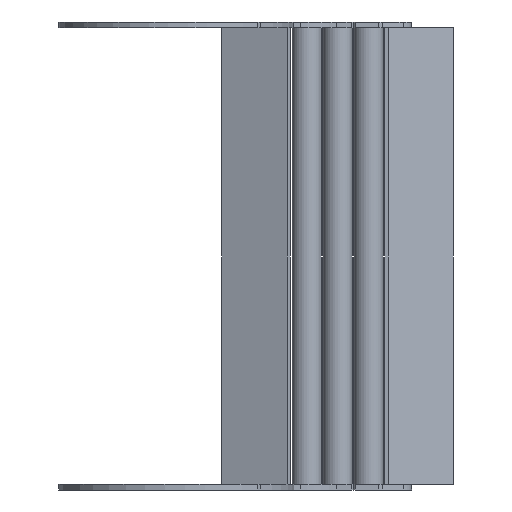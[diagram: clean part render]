
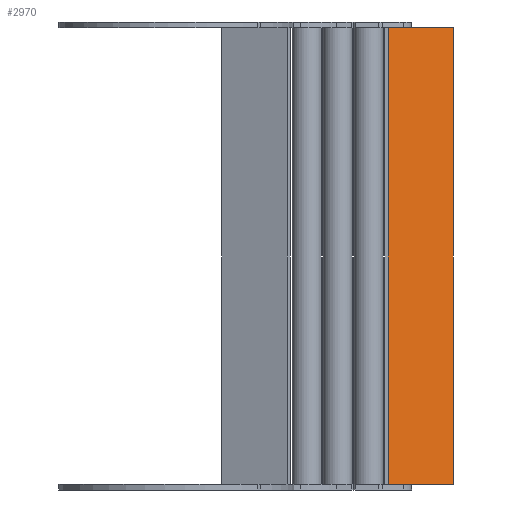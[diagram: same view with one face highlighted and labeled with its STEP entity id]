
A CAD part, front view. The second image highlights one B-rep face of the part: STEP entity #2970.
In plain terms, the highlighted planar face has unit normal (0.342, -0.94, 0).
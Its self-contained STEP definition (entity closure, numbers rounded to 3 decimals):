
#362 = CARTESIAN_POINT ( 'NONE',  ( 141.6, 73.787, 0. ) ) ;
#382 = PLANE ( 'NONE',  #3690 ) ;
#964 = CARTESIAN_POINT ( 'NONE',  ( 108.255, 61.65, -233. ) ) ;
#1376 = ORIENTED_EDGE ( 'NONE', *, *, #1847, .T. ) ;
#1523 = DIRECTION ( 'NONE',  ( 0., 0., 1. ) ) ;
#1562 = CARTESIAN_POINT ( 'NONE',  ( 114.569, 63.948, 0. ) ) ;
#1699 = CARTESIAN_POINT ( 'NONE',  ( 108.255, 61.65, -233. ) ) ;
#1784 = VECTOR ( 'NONE', #1523, 1000. ) ;
#1847 = EDGE_CURVE ( 'NONE', #7106, #5693, #5650, .T. ) ;
#1925 = VECTOR ( 'NONE', #5042, 1000. ) ;
#1938 = LINE ( 'NONE', #2460, #1784 ) ;
#1953 = VERTEX_POINT ( 'NONE', #6773 ) ;
#2077 = DIRECTION ( 'NONE',  ( -0.94, -0.342, 0. ) ) ;
#2117 = EDGE_CURVE ( 'NONE', #2994, #1953, #1938, .T. ) ;
#2371 = VECTOR ( 'NONE', #2682, 1000. ) ;
#2420 = EDGE_CURVE ( 'NONE', #7106, #2854, #6009, .T. ) ;
#2460 = CARTESIAN_POINT ( 'NONE',  ( 108.255, 61.65, -233. ) ) ;
#2682 = DIRECTION ( 'NONE',  ( -0.94, -0.342, 0. ) ) ;
#2714 = EDGE_LOOP ( 'NONE', ( #4030, #6314, #6746, #2770, #6250, #1376 ) ) ;
#2770 = ORIENTED_EDGE ( 'NONE', *, *, #4669, .F. ) ;
#2854 = VERTEX_POINT ( 'NONE', #6567 ) ;
#2970 = ADVANCED_FACE ( 'NONE', ( #3922 ), #382, .F. ) ;
#2994 = VERTEX_POINT ( 'NONE', #6530 ) ;
#3190 = CARTESIAN_POINT ( 'NONE',  ( 108.255, 61.65, -233. ) ) ;
#3224 = CARTESIAN_POINT ( 'NONE',  ( 108.255, 61.65, 0. ) ) ;
#3690 = AXIS2_PLACEMENT_3D ( 'NONE', #964, #6605, #2077 ) ;
#3784 = CARTESIAN_POINT ( 'NONE',  ( 108.255, 61.65, 0. ) ) ;
#3846 = LINE ( 'NONE', #3784, #4786 ) ;
#3922 = FACE_OUTER_BOUND ( 'NONE', #2714, .T. ) ;
#4002 = EDGE_CURVE ( 'NONE', #6208, #1953, #3846, .T. ) ;
#4030 = ORIENTED_EDGE ( 'NONE', *, *, #6279, .T. ) ;
#4338 = DIRECTION ( 'NONE',  ( -0.94, -0.342, 0. ) ) ;
#4428 = DIRECTION ( 'NONE',  ( 0., 0., 1. ) ) ;
#4656 = VECTOR ( 'NONE', #4784, 1000. ) ;
#4669 = EDGE_CURVE ( 'NONE', #2854, #2994, #4921, .T. ) ;
#4784 = DIRECTION ( 'NONE',  ( -0.94, -0.342, 0. ) ) ;
#4786 = VECTOR ( 'NONE', #4338, 1000. ) ;
#4921 = LINE ( 'NONE', #3190, #4656 ) ;
#4967 = LINE ( 'NONE', #3224, #2371 ) ;
#5042 = DIRECTION ( 'NONE',  ( -0.94, -0.342, 0. ) ) ;
#5162 = CARTESIAN_POINT ( 'NONE',  ( 141.6, 73.787, -233. ) ) ;
#5471 = VECTOR ( 'NONE', #4428, 1000. ) ;
#5650 = LINE ( 'NONE', #6088, #5471 ) ;
#5693 = VERTEX_POINT ( 'NONE', #362 ) ;
#6009 = LINE ( 'NONE', #1699, #1925 ) ;
#6088 = CARTESIAN_POINT ( 'NONE',  ( 141.6, 73.787, -233. ) ) ;
#6208 = VERTEX_POINT ( 'NONE', #1562 ) ;
#6250 = ORIENTED_EDGE ( 'NONE', *, *, #2420, .F. ) ;
#6279 = EDGE_CURVE ( 'NONE', #5693, #6208, #4967, .T. ) ;
#6314 = ORIENTED_EDGE ( 'NONE', *, *, #4002, .T. ) ;
#6530 = CARTESIAN_POINT ( 'NONE',  ( 108.255, 61.65, -233. ) ) ;
#6567 = CARTESIAN_POINT ( 'NONE',  ( 114.569, 63.948, -233. ) ) ;
#6605 = DIRECTION ( 'NONE',  ( -0.342, 0.94, 0. ) ) ;
#6746 = ORIENTED_EDGE ( 'NONE', *, *, #2117, .F. ) ;
#6773 = CARTESIAN_POINT ( 'NONE',  ( 108.255, 61.65, 0. ) ) ;
#7106 = VERTEX_POINT ( 'NONE', #5162 ) ;
